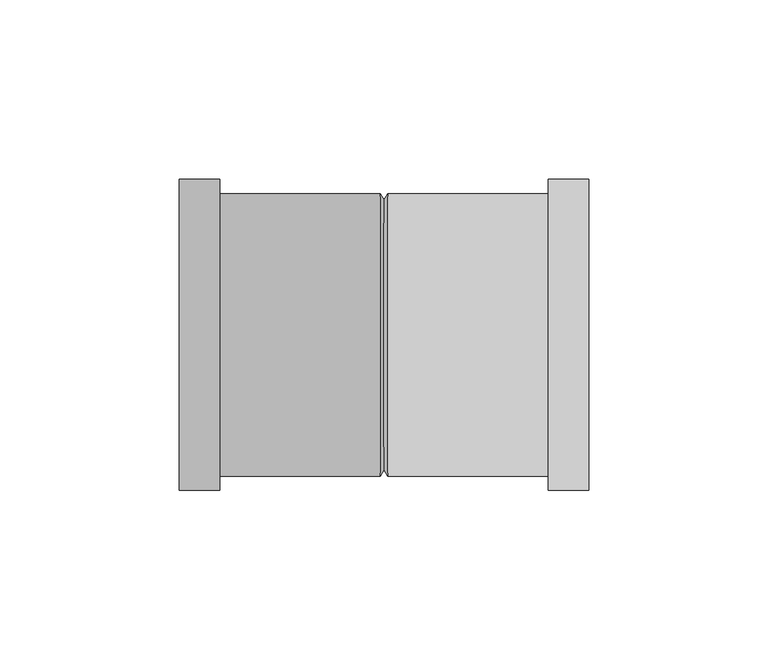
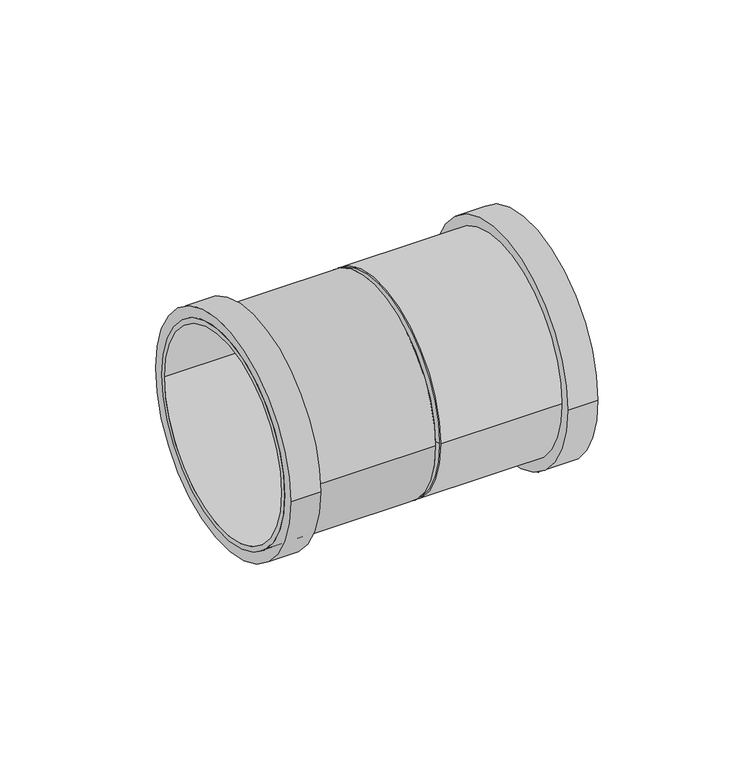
"""IFC4 building model written with IfcOpenShell, lengths in millimetres: pipe fitting geometry, Superdrain HTMM-Double socket : Superdrain HTMM-Double socket."""

from ifc_helpers import new_model, si_unit, point, frame, origin, origin_2d, place, context, project, spatial, polyline, circle_curve, trimmed, segment, composite_curve, outline, extrude, source, transform, mapped, element, save
from ifc_brep_helpers import plane_surface, revolved_surface, advanced_brep


def pipe_fitting_df833f15(model_context):
    return source(origin(), model_context, "Body", "SolidModel", [
        extrude(outline(composite_curve([segment(trimmed(circle_curve(origin_2d(), 39.375), [point((39.375, 0.0))], [point((-39.375, 0.0))], False, "CARTESIAN"), True, "CONTINUOUS"), segment(trimmed(circle_curve(origin_2d(), 39.375), [point((-39.375, 0.0))], [point((39.375, 0.0))], False, "CARTESIAN"), True, "CONTINUOUS")], self_intersect=False), holes=[composite_curve([segment(trimmed(circle_curve(origin_2d(), 37.5), [point((37.5, 0.0))], [point((-37.5, 0.0))], True, "CARTESIAN"), True, "CONTINUOUS"), segment(trimmed(circle_curve(origin_2d(), 37.5), [point((-37.5, 0.0))], [point((37.5, 0.0))], True, "CARTESIAN"), True, "CONTINUOUS")], self_intersect=False)]), frame((1.0, 0.0, 0.0), z_axis=(1.0, 0.0, 0.0), x_axis=(0.0, 1.0, 0.0)), (0.0, 0.0, 1.0), 56.0),
        extrude(outline(composite_curve([segment(trimmed(circle_curve(origin_2d(), 43.3125), [point((43.3125, 0.0))], [point((-43.3125, 0.0))], False, "CARTESIAN"), True, "CONTINUOUS"), segment(trimmed(circle_curve(origin_2d(), 43.3125), [point((-43.3125, 0.0))], [point((43.3125, 0.0))], False, "CARTESIAN"), True, "CONTINUOUS")], self_intersect=False), holes=[composite_curve([segment(trimmed(circle_curve(origin_2d(), 37.5), [point((37.5, 0.0))], [point((-37.5, 0.0))], True, "CARTESIAN"), True, "CONTINUOUS"), segment(trimmed(circle_curve(origin_2d(), 37.5), [point((-37.5, 0.0))], [point((37.5, 0.0))], True, "CARTESIAN"), True, "CONTINUOUS")], self_intersect=False)]), frame((45.8, 0.0, 0.0), z_axis=(1.0, 0.0, 0.0), x_axis=(0.0, 1.0, 0.0)), (0.0, 0.0, 1.0), 11.2),
        advanced_brep(
        [(0.0, 37.5, 0.0), (0.0, -37.5, 0.0), (1.0, 39.375, 0.0), (1.0, -39.375, 0.0)],
        [
            (0, 1, circle_curve(frame((0.0, 0.0, 0.0), z_axis=(-1.0, 0.0, 0.0), x_axis=(0.0, 1.0000000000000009, 0.0)), 37.5)),
            (1, 0, circle_curve(frame((0.0, 0.0, 0.0), z_axis=(-1.0, 0.0, 0.0), x_axis=(0.0, -1.0000000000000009, 0.0)), 37.5)),
            (2, 3, circle_curve(frame((1.0, 0.0, 0.0), z_axis=(1.0, 0.0, 0.0), x_axis=(0.0, -1.0000000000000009, 0.0)), 39.375)),
            (3, 2, circle_curve(frame((1.0, 0.0, 0.0), z_axis=(1.0, 0.0, 0.0), x_axis=(0.0, 1.0000000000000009, 0.0)), 39.375)),
            (3, 1),
            (0, 2),
        ],
        [
            plane_surface(frame((0.0, 0.0, 0.0), z_axis=(-1.0, 0.0, 0.0), x_axis=(0.0, 0.0, -1.0))),
            plane_surface(frame((1.0, 0.0, 0.0), z_axis=(1.0, 0.0, 0.0), x_axis=(0.0, 0.0, -1.0))),
            revolved_surface(polyline([(-3.552713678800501e-15, 37.49999999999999, 0.0), (1.0, 39.375, 0.0)]), (-20.0, 0.0, 0.0), (1.0000000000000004, 0.0, 0.0)),
            revolved_surface(polyline([(-3.552713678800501e-15, -37.49999999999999, 0.0), (1.0, -39.375, 0.0)]), (-20.0, 0.0, 0.0), (1.0000000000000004, 0.0, 0.0)),
        ],
        [
            (0, [[1, 2]]),
            (1, [[3, 4]]),
            (2, [[-4, 5, -1, 6]]),
            (3, [[-3, -6, -2, -5]]),
        ],
    ),
        extrude(outline(composite_curve([segment(trimmed(circle_curve(origin_2d(), 39.375), [point((-39.375, 0.0))], [point((39.375, 0.0))], False, "CARTESIAN"), True, "CONTINUOUS"), segment(trimmed(circle_curve(origin_2d(), 39.375), [point((39.375, 0.0))], [point((-39.375, 0.0))], False, "CARTESIAN"), True, "CONTINUOUS")], self_intersect=False), holes=[composite_curve([segment(trimmed(circle_curve(origin_2d(), 37.5), [point((-37.5, 0.0))], [point((37.5, 0.0))], True, "CARTESIAN"), True, "CONTINUOUS"), segment(trimmed(circle_curve(origin_2d(), 37.5), [point((37.5, 0.0))], [point((-37.5, 0.0))], True, "CARTESIAN"), True, "CONTINUOUS")], self_intersect=False)]), frame((-57.0, 0.0, 0.0), z_axis=(1.0, 0.0, 0.0), x_axis=(0.0, 1.0, 0.0)), (0.0, 0.0, 1.0), 56.0),
        extrude(outline(composite_curve([segment(trimmed(circle_curve(origin_2d(), 43.3125), [point((-43.3125, 0.0))], [point((43.3125, 0.0))], False, "CARTESIAN"), True, "CONTINUOUS"), segment(trimmed(circle_curve(origin_2d(), 43.3125), [point((43.3125, 0.0))], [point((-43.3125, 0.0))], False, "CARTESIAN"), True, "CONTINUOUS")], self_intersect=False), holes=[composite_curve([segment(trimmed(circle_curve(origin_2d(), 37.5), [point((-37.5, 0.0))], [point((37.5, 0.0))], True, "CARTESIAN"), True, "CONTINUOUS"), segment(trimmed(circle_curve(origin_2d(), 37.5), [point((37.5, 0.0))], [point((-37.5, 0.0))], True, "CARTESIAN"), True, "CONTINUOUS")], self_intersect=False)]), frame((-57.0, 0.0, 0.0), z_axis=(1.0, 0.0, 0.0), x_axis=(0.0, 1.0, 0.0)), (0.0, 0.0, 1.0), 11.2),
        advanced_brep(
        [(0.0, -37.5, 0.0), (0.0, 37.5, 0.0), (-1.0, -39.375, 0.0), (-1.0, 39.375, 0.0)],
        [
            (0, 1, circle_curve(frame((0.0, 0.0, 0.0), z_axis=(1.0, 0.0, 0.0), x_axis=(0.0, -1.0, 0.0)), 37.5)),
            (1, 0, circle_curve(frame((0.0, 0.0, 0.0), z_axis=(1.0, 0.0, 0.0), x_axis=(0.0, 1.0, 0.0)), 37.5)),
            (2, 3, circle_curve(frame((-1.0, 0.0, 0.0), z_axis=(-1.0, 0.0, 0.0), x_axis=(0.0, 1.0, 0.0)), 39.375)),
            (3, 2, circle_curve(frame((-1.0, 0.0, 0.0), z_axis=(-1.0, 0.0, 0.0), x_axis=(0.0, -1.0, 0.0)), 39.375)),
            (3, 1),
            (0, 2),
        ],
        [
            plane_surface(frame((0.0, 0.0, 0.0), z_axis=(1.0, 0.0, 0.0), x_axis=(0.0, 0.0, -1.0))),
            plane_surface(frame((-1.0, 0.0, 0.0), z_axis=(-1.0, 0.0, 0.0), x_axis=(0.0, 0.0, -1.0))),
            revolved_surface(polyline([(0.0, -37.5, 0.0), (-1.0, -39.375, 0.0)]), (20.0, 0.0, 0.0), (-1.0, 0.0, 0.0)),
            revolved_surface(polyline([(0.0, 37.5, 0.0), (-1.0, 39.375, 0.0)]), (20.0, 0.0, 0.0), (-1.0, 0.0, 0.0)),
        ],
        [
            (0, [[1, 2]]),
            (1, [[3, 4]]),
            (2, [[-4, 5, -1, 6]]),
            (3, [[-3, -6, -2, -5]]),
        ],
    ),
        extrude(outline(composite_curve([segment(trimmed(circle_curve(origin_2d(), 37.5), [point((-37.5, 0.0))], [point((37.5, 0.0))], False, "CARTESIAN"), True, "CONTINUOUS"), segment(trimmed(circle_curve(origin_2d(), 37.5), [point((37.5, 0.0))], [point((-37.5, 0.0))], False, "CARTESIAN"), True, "CONTINUOUS")], self_intersect=False)), frame((-1.0, 0.0, 0.0), z_axis=(1.0, 0.0, 0.0), x_axis=(0.0, 1.0, 0.0)), (0.0, 0.0, 1.0), 2.0),
    ])


if __name__ == "__main__":
    model = new_model("IFC4")
    model_context = context("Model", 3, world=origin())
    ifc_project = project(units=[si_unit("LENGTHUNIT", "METRE", prefix="MILLI")], contexts=[model_context])
    site = spatial("IfcSite", under=ifc_project)
    building = spatial("IfcBuilding", under=site)
    placement = place(None, origin())
    pipe_fitting_shape = pipe_fitting_df833f15(model_context)
    element("IfcPipeFitting", 1, ObjectType="Superdrain HTMM-Double socket : Superdrain HTMM-Double socket", at=placement, inside=building, context=model_context, shape_type="MappedRepresentation", body=[
        mapped(pipe_fitting_shape, transform((0.0, 0.0, 0.0), x_axis=(1.0, 0.0, 0.0), y_axis=(0.0, 1.0, 0.0), z_axis=(0.0, 0.0, 1.0))),
    ])
    save(model, "model.ifc")
